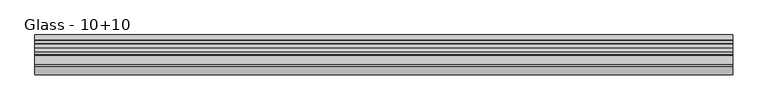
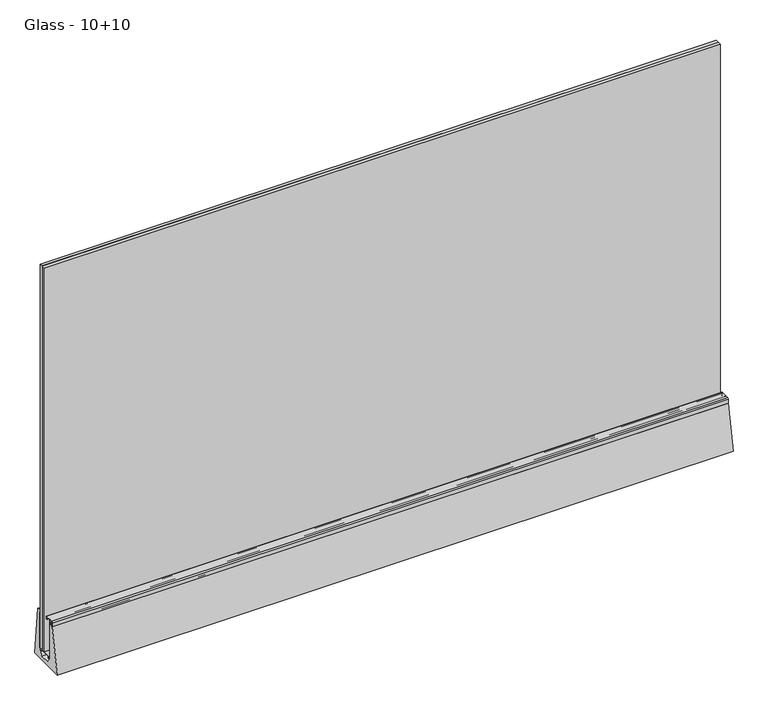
"""IFC4 building model written with IfcOpenShell, lengths in millimetres: proxy geometry, Construction_Slope-Glazing_Faraone_Linea-3-Maxi : Glass - 10+10."""

from ifc_helpers import new_model, si_unit, point, frame, frame_2d, origin, place, context, project, spatial, polyline, circle_curve, trimmed, segment, composite_curve, outline, extrude, source, transform, mapped, element, save


def glass_10_10_ab900773(model_context):
    return source(origin(), model_context, "Body", "SweptSolid", [
        extrude(outline(polyline([(1000.0, 29.9536793), (1000.0, 20.0036793), (-1000.0, 20.0036793), (-1000.0, 29.9536793), (1000.0, 29.9536793)])), frame((0.0, 0.0, 32.9998941), z_axis=(0.0, 0.0, 1.0), x_axis=(1.0, 0.0, 0.0)), (0.0, 0.0, 1.0), 1200.0),
        extrude(outline(polyline([(1000.0, 18.4036793), (1000.0, 8.4536793), (-1000.0, 8.4536793), (-1000.0, 18.4036793), (1000.0, 18.4036793)])), frame((0.0, 0.0, 32.9998941), z_axis=(0.0, 0.0, 1.0), x_axis=(1.0, 0.0, 0.0)), (0.0, 0.0, 1.0), 1200.0),
        extrude(outline(polyline([(27.9495501, 27.4998941), (28.9495501, 27.4998941), (27.9495501, 23.9998941), (25.4495501, 23.9998941), (25.4495501, 29.9998941), (-10.950381, 29.9998941), (-10.950381, 23.9998941), (-13.450381, 23.9998941), (-14.4501535, 27.4998941), (-13.450381, 27.4998941), (-13.450381, 30.0001664), (-16.4959153, 30.0001664), (-16.4959153, 32.9998941), (30.7553177, 32.9998941), (30.7553177, 140.9999202), (33.4499946, 140.9999202), (33.4499946, 29.9998941), (27.9495501, 29.9998941), (27.9495501, 27.4998941)])), frame((-1000.0, 0.0, 0.0), z_axis=(1.0, 0.0, 0.0), x_axis=(0.0, 1.0, 0.0)), (0.0, 0.0, 1.0), 2000.0),
        extrude(outline(composite_curve([segment(trimmed(circle_curve(frame_2d((-0.5622607, 149.6202564)), 0.5), [point((-0.5622607, 150.1202564))], [point((-0.0622607, 149.6202564))], False, "CARTESIAN"), True, "CONTINUOUS"), segment(polyline([(-0.0622607, 149.6202564), (-0.0622607, 147.5116834), (-0.8559184, 147.5116834), (-0.8559184, 148.7592807), (-1.7540112, 148.7592807)]), True, "CONTINUOUS"), segment(trimmed(circle_curve(frame_2d((-1.7540112, 148.251018)), 0.5082627), [point((-1.7540112, 148.7592807))], [point((-2.2622739, 148.251018))], True, "CARTESIAN"), True, "CONTINUOUS"), segment(polyline([(-2.2622739, 148.251018), (-2.2622739, 143.7675435)]), True, "CONTINUOUS"), segment(trimmed(circle_curve(frame_2d((-1.7540112, 143.7675435)), 0.5082627), [point((-2.2622739, 143.7675435))], [point((-1.7540112, 143.2592807))], True, "CARTESIAN"), True, "CONTINUOUS"), segment(polyline([(-1.7540112, 143.2592807), (-0.8559184, 143.2592807), (-0.8559184, 144.5068781), (-0.0622607, 144.5068781), (-0.0622607, 142.5592807)]), True, "CONTINUOUS"), segment(trimmed(circle_curve(frame_2d((-0.5622607, 142.5592807)), 0.5), [point((-0.0622607, 142.5592807))], [point((-0.5622607, 142.0592807))], False, "CARTESIAN"), True, "CONTINUOUS"), segment(polyline([(-0.5622607, 142.0592807), (-2.9622736, 142.0592807)]), True, "CONTINUOUS"), segment(trimmed(circle_curve(frame_2d((-2.9622736, 142.559281)), 0.5000003), [point((-2.9622736, 142.0592807))], [point((-3.4622739, 142.559281))], False, "CARTESIAN"), True, "CONTINUOUS"), segment(polyline([(-3.4622739, 142.559281), (-3.4622739, 148.1202567)]), True, "CONTINUOUS"), segment(trimmed(circle_curve(frame_2d((-3.9622739, 148.1202567)), 0.5), [point((-3.4622739, 148.1202567))], [point((-3.9622739, 148.6202567))], True, "CARTESIAN"), True, "CONTINUOUS"), segment(polyline([(-3.9622739, 148.6202567), (-18.4381651, 148.6202569), (-18.4381651, 134.8497503), (-20.5252665, 134.8497503), (-20.5252665, 139.9087036), (-19.6381651, 139.9087036), (-19.6381651, 147.8202569)]), True, "CONTINUOUS"), segment(trimmed(circle_curve(frame_2d((-19.6381651, 148.2202569)), 0.4), [point((-19.6381651, 147.8202569))], [point((-19.6381651, 148.6202569))], True, "CARTESIAN"), True, "CONTINUOUS"), segment(polyline([(-19.6381651, 148.6202569), (-28.9632186, 148.6202569)]), True, "CONTINUOUS"), segment(trimmed(circle_curve(frame_2d((-28.9632186, 147.1202566)), 1.5000003), [point((-28.9632186, 148.6202569))], [point((-30.4632189, 147.1202566))], True, "CARTESIAN"), True, "CONTINUOUS"), segment(polyline([(-30.4632189, 147.1202566), (-30.4632189, 139.9087036), (-29.5827199, 139.9087036), (-29.5827199, 134.8497503), (-31.6632189, 134.8505456), (-31.6632189, 147.1202564)]), True, "CONTINUOUS"), segment(trimmed(circle_curve(frame_2d((-28.6632189, 147.1202564)), 3.0), [point((-31.6632189, 147.1202564))], [point((-28.6632189, 150.1202564))], False, "CARTESIAN"), True, "CONTINUOUS"), segment(polyline([(-28.6632189, 150.1202564), (-0.5622607, 150.1202564)]), True, "CONTINUOUS")], self_intersect=False)), frame((-1000.0, 0.0, 0.0), z_axis=(1.0, 0.0, 0.0), x_axis=(0.0, 1.0, 0.0)), (0.0, 0.0, 1.0), 2000.0),
        extrude(outline(composite_curve([segment(polyline([(-57.25, 0.0), (-31.812192, 134.8497503), (-29.5827199, 134.8497503), (-29.5827199, 141.7168813), (-20.5252665, 141.7168813), (-20.5252665, 134.8497503), (-18.9499762, 134.8497503), (-18.9499762, 30.0001664), (-13.9493491, 30.0001664), (-13.9493491, 28.0001664), (-19.2314658, 28.0001664), (-7.6590914, 11.0005351), (22.522986, 11.0002742), (33.5998649, 28.0000261), (28.4500912, 28.0000261), (28.4500912, 29.9998941), (33.4499946, 29.9998941), (33.4499271, 149.9042043), (40.4619354, 149.9042043)]), True, "CONTINUOUS"), segment(trimmed(circle_curve(frame_2d((40.4619354, 148.7574992)), 1.1467051), [point((40.4619354, 149.9042043))], [point((41.6023587, 148.8773626))], False, "CARTESIAN"), True, "CONTINUOUS"), segment(polyline([(41.6023587, 148.8773626), (57.25, 0.0), (-57.25, 0.0)]), True, "CONTINUOUS")], self_intersect=False)), frame((-1000.0, 0.0, 0.0), z_axis=(1.0, 0.0, 0.0), x_axis=(0.0, 1.0, 0.0)), (0.0, 0.0, 1.0), 2000.0),
    ])


if __name__ == "__main__":
    model = new_model("IFC4")
    model_context = context("Model", 3, world=origin())
    ifc_project = project(units=[si_unit("LENGTHUNIT", "METRE", prefix="MILLI")], contexts=[model_context])
    site = spatial("IfcSite", under=ifc_project)
    building = spatial("IfcBuilding", under=site)
    placement = place(None, origin())
    glass_10_10_shape = glass_10_10_ab900773(model_context)
    element("IfcBuildingElementProxy", 1, Name="Construction_Slope-Glazing_Faraone_Linea-3-Maxi : Glass - 10+10", ObjectType="Construction_Slope-Glazing_Faraone_Linea-3-Maxi : Glass - 10+10", at=placement, inside=building, context=model_context, shape_type="MappedRepresentation", body=[
        mapped(glass_10_10_shape, transform((0.0, 0.0, 0.0), x_axis=(1.0, 0.0, 0.0), y_axis=(0.0, 1.0, 0.0), z_axis=(0.0, 0.0, 1.0))),
    ])
    save(model, "model.ifc")
